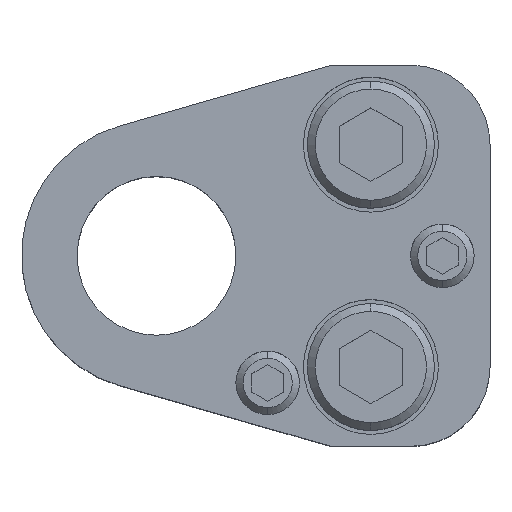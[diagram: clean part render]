
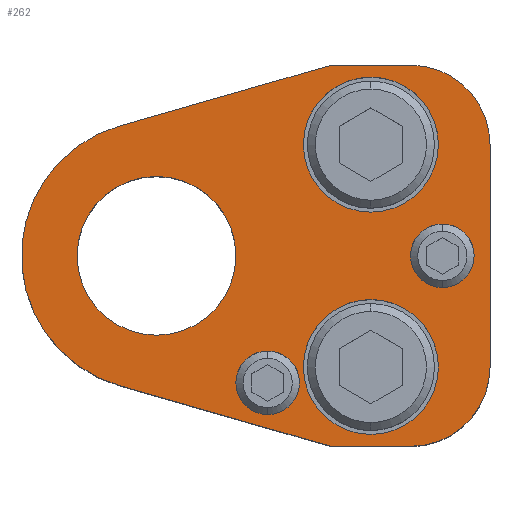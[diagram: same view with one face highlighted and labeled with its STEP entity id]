
A CAD part, top view. The second image highlights one B-rep face of the part: STEP entity #262.
In plain terms, the highlighted planar face has unit normal (0, 0, 1).
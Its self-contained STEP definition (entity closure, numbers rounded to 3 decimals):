
#149=FACE_BOUND('',#571,.T.);
#150=FACE_BOUND('',#572,.T.);
#151=FACE_BOUND('',#573,.T.);
#152=FACE_BOUND('',#574,.T.);
#153=FACE_BOUND('',#575,.T.);
#154=FACE_BOUND('',#576,.T.);
#189=PLANE('',#2275);
#262=ADVANCED_FACE('',(#149,#150,#151,#152,#153,#154),#189,.T.);
#571=EDGE_LOOP('',(#925,#926,#927,#928,#929,#930,#931,#932));
#572=EDGE_LOOP('',(#933,#934));
#573=EDGE_LOOP('',(#935,#936));
#574=EDGE_LOOP('',(#937,#938));
#575=EDGE_LOOP('',(#939,#940));
#576=EDGE_LOOP('',(#941,#942));
#703=CIRCLE('',#2218,17.);
#705=CIRCLE('',#2223,10.);
#707=CIRCLE('',#2227,10.);
#725=CIRCLE('',#2255,8.5);
#728=CIRCLE('',#2259,8.5);
#729=CIRCLE('',#2262,8.5);
#732=CIRCLE('',#2266,8.5);
#733=CIRCLE('',#2269,4.);
#734=CIRCLE('',#2270,4.);
#735=CIRCLE('',#2271,4.);
#736=CIRCLE('',#2272,4.);
#737=CIRCLE('',#2273,10.);
#738=CIRCLE('',#2274,10.);
#925=ORIENTED_EDGE('',*,*,#1598,.T.);
#926=ORIENTED_EDGE('',*,*,#1602,.T.);
#927=ORIENTED_EDGE('',*,*,#1605,.T.);
#928=ORIENTED_EDGE('',*,*,#1608,.T.);
#929=ORIENTED_EDGE('',*,*,#1611,.T.);
#930=ORIENTED_EDGE('',*,*,#1614,.T.);
#931=ORIENTED_EDGE('',*,*,#1617,.T.);
#932=ORIENTED_EDGE('',*,*,#1620,.T.);
#933=ORIENTED_EDGE('',*,*,#1655,.F.);
#934=ORIENTED_EDGE('',*,*,#1656,.F.);
#935=ORIENTED_EDGE('',*,*,#1657,.F.);
#936=ORIENTED_EDGE('',*,*,#1658,.F.);
#937=ORIENTED_EDGE('',*,*,#1654,.F.);
#938=ORIENTED_EDGE('',*,*,#1650,.F.);
#939=ORIENTED_EDGE('',*,*,#1648,.F.);
#940=ORIENTED_EDGE('',*,*,#1644,.F.);
#941=ORIENTED_EDGE('',*,*,#1659,.F.);
#942=ORIENTED_EDGE('',*,*,#1660,.F.);
#1412=VERTEX_POINT('',#3164);
#1413=VERTEX_POINT('',#3166);
#1416=VERTEX_POINT('',#3173);
#1418=VERTEX_POINT('',#3179);
#1420=VERTEX_POINT('',#3185);
#1422=VERTEX_POINT('',#3191);
#1424=VERTEX_POINT('',#3197);
#1426=VERTEX_POINT('',#3203);
#1443=VERTEX_POINT('',#3256);
#1445=VERTEX_POINT('',#3259);
#1447=VERTEX_POINT('',#3269);
#1449=VERTEX_POINT('',#3272);
#1451=VERTEX_POINT('',#3282);
#1452=VERTEX_POINT('',#3283);
#1453=VERTEX_POINT('',#3286);
#1454=VERTEX_POINT('',#3287);
#1455=VERTEX_POINT('',#3290);
#1456=VERTEX_POINT('',#3291);
#1598=EDGE_CURVE('',#1413,#1412,#703,.T.);
#1602=EDGE_CURVE('',#1412,#1416,#1892,.T.);
#1605=EDGE_CURVE('',#1416,#1418,#1895,.T.);
#1608=EDGE_CURVE('',#1418,#1420,#705,.T.);
#1611=EDGE_CURVE('',#1420,#1422,#1899,.T.);
#1614=EDGE_CURVE('',#1422,#1424,#707,.T.);
#1617=EDGE_CURVE('',#1424,#1426,#1903,.T.);
#1620=EDGE_CURVE('',#1426,#1413,#1906,.T.);
#1644=EDGE_CURVE('',#1443,#1445,#725,.T.);
#1648=EDGE_CURVE('',#1445,#1443,#728,.T.);
#1650=EDGE_CURVE('',#1447,#1449,#729,.T.);
#1654=EDGE_CURVE('',#1449,#1447,#732,.T.);
#1655=EDGE_CURVE('',#1451,#1452,#733,.T.);
#1656=EDGE_CURVE('',#1452,#1451,#734,.T.);
#1657=EDGE_CURVE('',#1453,#1454,#735,.T.);
#1658=EDGE_CURVE('',#1454,#1453,#736,.T.);
#1659=EDGE_CURVE('',#1455,#1456,#737,.T.);
#1660=EDGE_CURVE('',#1456,#1455,#738,.T.);
#1892=LINE('',#3174,#2056);
#1895=LINE('',#3180,#2059);
#1899=LINE('',#3192,#2063);
#1903=LINE('',#3204,#2067);
#1906=LINE('',#3208,#2070);
#2056=VECTOR('',#2488,1.);
#2059=VECTOR('',#2493,1.);
#2063=VECTOR('',#2505,1.);
#2067=VECTOR('',#2517,1.);
#2070=VECTOR('',#2522,1.);
#2218=AXIS2_PLACEMENT_3D('',#3165,#2480,#2481);
#2223=AXIS2_PLACEMENT_3D('',#3186,#2498,#2499);
#2227=AXIS2_PLACEMENT_3D('',#3198,#2510,#2511);
#2255=AXIS2_PLACEMENT_3D('',#3258,#2578,#2579);
#2259=AXIS2_PLACEMENT_3D('',#3265,#2587,#2588);
#2262=AXIS2_PLACEMENT_3D('',#3271,#2594,#2595);
#2266=AXIS2_PLACEMENT_3D('',#3278,#2603,#2604);
#2269=AXIS2_PLACEMENT_3D('',#3281,#2609,#2610);
#2270=AXIS2_PLACEMENT_3D('',#3284,#2611,#2612);
#2271=AXIS2_PLACEMENT_3D('',#3285,#2613,#2614);
#2272=AXIS2_PLACEMENT_3D('',#3288,#2615,#2616);
#2273=AXIS2_PLACEMENT_3D('',#3289,#2617,#2618);
#2274=AXIS2_PLACEMENT_3D('',#3292,#2619,#2620);
#2275=AXIS2_PLACEMENT_3D('',#3293,#2621,#2622);
#2480=DIRECTION('',(0.,0.,1.));
#2481=DIRECTION('',(0.,1.,0.));
#2488=DIRECTION('',(0.961,-0.276,0.));
#2493=DIRECTION('',(1.,0.,0.));
#2498=DIRECTION('',(0.,0.,1.));
#2499=DIRECTION('',(-0.707,0.707,0.));
#2505=DIRECTION('',(0.,1.,0.));
#2510=DIRECTION('',(0.,0.,1.));
#2511=DIRECTION('',(-0.707,-0.707,0.));
#2517=DIRECTION('',(-1.,0.,0.));
#2522=DIRECTION('',(-0.961,-0.276,0.));
#2578=DIRECTION('',(0.,0.,1.));
#2579=DIRECTION('',(-1.,0.,0.));
#2587=DIRECTION('',(0.,0.,1.));
#2588=DIRECTION('',(1.,0.,0.));
#2594=DIRECTION('',(0.,0.,1.));
#2595=DIRECTION('',(-1.,0.,0.));
#2603=DIRECTION('',(0.,0.,1.));
#2604=DIRECTION('',(1.,0.,0.));
#2609=DIRECTION('',(0.,0.,1.));
#2610=DIRECTION('',(1.,0.,0.));
#2611=DIRECTION('',(0.,0.,1.));
#2612=DIRECTION('',(-1.,0.,0.));
#2613=DIRECTION('',(0.,0.,1.));
#2614=DIRECTION('',(1.,0.,0.));
#2615=DIRECTION('',(0.,0.,1.));
#2616=DIRECTION('',(-1.,0.,0.));
#2617=DIRECTION('',(0.,0.,1.));
#2618=DIRECTION('',(-1.,0.,0.));
#2619=DIRECTION('',(0.,0.,1.));
#2620=DIRECTION('',(1.,0.,0.));
#2621=DIRECTION('',(0.,0.,1.));
#2622=DIRECTION('',(0.961,0.276,0.));
#3164=CARTESIAN_POINT('',(-4.69,-16.34,30.));
#3165=CARTESIAN_POINT('',(0.,0.,30.));
#3166=CARTESIAN_POINT('',(-4.69,16.34,30.));
#3173=CARTESIAN_POINT('',(22.,-24.,30.));
#3174=CARTESIAN_POINT('',(22.,-24.,30.));
#3179=CARTESIAN_POINT('',(32.,-24.,30.));
#3180=CARTESIAN_POINT('',(22.,-24.,30.));
#3185=CARTESIAN_POINT('',(42.,-14.,30.));
#3186=CARTESIAN_POINT('',(32.,-14.,30.));
#3191=CARTESIAN_POINT('',(42.,14.,30.));
#3192=CARTESIAN_POINT('',(42.,-14.,30.));
#3197=CARTESIAN_POINT('',(32.,24.,30.));
#3198=CARTESIAN_POINT('',(32.,14.,30.));
#3203=CARTESIAN_POINT('',(22.,24.,30.));
#3204=CARTESIAN_POINT('',(22.,24.,30.));
#3208=CARTESIAN_POINT('',(22.,24.,30.));
#3256=CARTESIAN_POINT('',(27.,5.5,30.));
#3258=CARTESIAN_POINT('',(27.,14.,30.));
#3259=CARTESIAN_POINT('',(27.,22.5,30.));
#3265=CARTESIAN_POINT('',(27.,14.,30.));
#3269=CARTESIAN_POINT('',(27.,-22.5,30.));
#3271=CARTESIAN_POINT('',(27.,-14.,30.));
#3272=CARTESIAN_POINT('',(27.,-5.5,30.));
#3278=CARTESIAN_POINT('',(27.,-14.,30.));
#3281=CARTESIAN_POINT('',(36.,0.,30.));
#3282=CARTESIAN_POINT('',(36.,4.,30.));
#3283=CARTESIAN_POINT('',(36.,-4.,30.));
#3284=CARTESIAN_POINT('',(36.,0.,30.));
#3285=CARTESIAN_POINT('',(14.,-16.,30.));
#3286=CARTESIAN_POINT('',(14.,-12.,30.));
#3287=CARTESIAN_POINT('',(14.,-20.,30.));
#3288=CARTESIAN_POINT('',(14.,-16.,30.));
#3289=CARTESIAN_POINT('',(0.,0.,30.));
#3290=CARTESIAN_POINT('',(0.,-10.,30.));
#3291=CARTESIAN_POINT('',(0.,10.,30.));
#3292=CARTESIAN_POINT('',(0.,0.,30.));
#3293=CARTESIAN_POINT('',(-4.69,16.34,30.));
